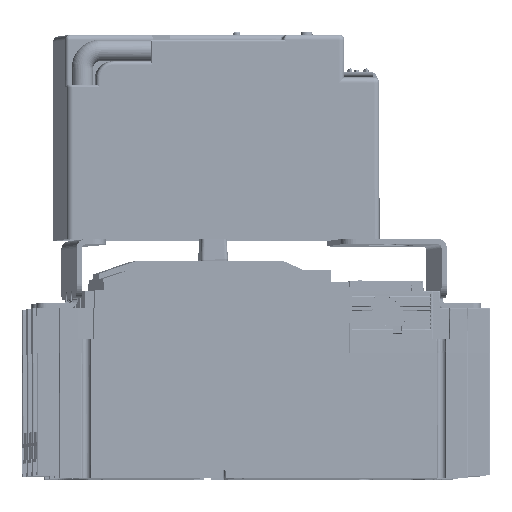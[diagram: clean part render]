
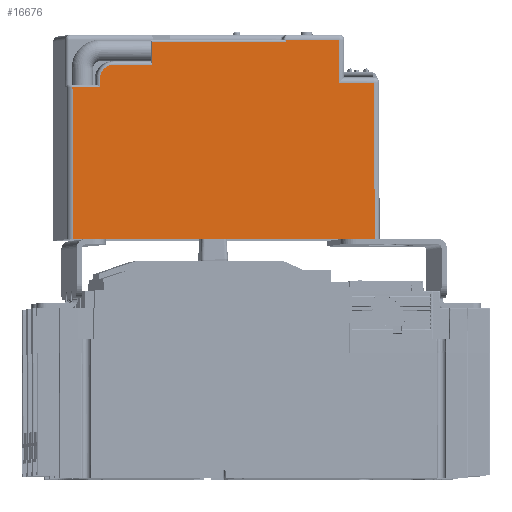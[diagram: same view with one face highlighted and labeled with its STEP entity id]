
A CAD part, left-side view. The second image highlights one B-rep face of the part: STEP entity #16676.
In plain terms, the highlighted planar face has unit normal (-0.998, -0.062, 0.009).
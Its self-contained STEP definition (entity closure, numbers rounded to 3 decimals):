
#16676=ADVANCED_FACE('',(#89555),#89557,.T.);
#89555=FACE_BOUND('',#89556,.T.);
#89556=EDGE_LOOP('',(#173562,#173563,#173564,#173565,#173566,#173567,#173568,#173569,
#173570,#173571,#173572,#173573,#173574,#173575,#173576,#173577));
#89557=PLANE('',#89558);
#89558=AXIS2_PLACEMENT_3D('',#89559,#89560,#89561);
#89559=CARTESIAN_POINT('',(-5.032,99.947,168.989));
#89560=DIRECTION('',(-0.998,-0.062,0.009));
#89561=DIRECTION('',(0.062,-0.998,0.));
#173562=ORIENTED_EDGE('',*,*,#234109,.F.);
#173563=ORIENTED_EDGE('',*,*,#234117,.T.);
#173564=ORIENTED_EDGE('',*,*,#236849,.F.);
#173565=ORIENTED_EDGE('',*,*,#236850,.T.);
#173566=ORIENTED_EDGE('',*,*,#236851,.T.);
#173567=ORIENTED_EDGE('',*,*,#236852,.T.);
#173568=ORIENTED_EDGE('',*,*,#236853,.F.);
#173569=ORIENTED_EDGE('',*,*,#236854,.F.);
#173570=ORIENTED_EDGE('',*,*,#236855,.T.);
#173571=ORIENTED_EDGE('',*,*,#236856,.T.);
#173572=ORIENTED_EDGE('',*,*,#236857,.T.);
#173573=ORIENTED_EDGE('',*,*,#236858,.F.);
#173574=ORIENTED_EDGE('',*,*,#236859,.T.);
#173575=ORIENTED_EDGE('',*,*,#236860,.T.);
#173576=ORIENTED_EDGE('',*,*,#236861,.F.);
#173577=ORIENTED_EDGE('',*,*,#234103,.T.);
#234103=EDGE_CURVE('',#270000,#267153,#270001,.T.);
#234109=EDGE_CURVE('',#267169,#267153,#270010,.F.);
#234117=EDGE_CURVE('',#267169,#270020,#270022,.T.);
#236849=EDGE_CURVE('',#274636,#270020,#274637,.T.);
#236850=EDGE_CURVE('',#274636,#274638,#274639,.T.);
#236851=EDGE_CURVE('',#274638,#274640,#274641,.T.);
#236852=EDGE_CURVE('',#274640,#274642,#274643,.F.);
#236853=EDGE_CURVE('',#274644,#274642,#274645,.T.);
#236854=EDGE_CURVE('',#274646,#274644,#274647,.T.);
#236855=EDGE_CURVE('',#274646,#274648,#274649,.T.);
#236856=EDGE_CURVE('',#274648,#274650,#274651,.F.);
#236857=EDGE_CURVE('',#274650,#274652,#274653,.T.);
#236858=EDGE_CURVE('',#274654,#274652,#274655,.F.);
#236859=EDGE_CURVE('',#274654,#274656,#274657,.F.);
#236860=EDGE_CURVE('',#274656,#274658,#274659,.T.);
#236861=EDGE_CURVE('',#270000,#274658,#274660,.T.);
#267153=VERTEX_POINT('',#316606);
#267169=VERTEX_POINT('',#316644);
#270000=VERTEX_POINT('',#324293);
#270001=LINE('',#324294,#324295);
#270010=LINE('',#324317,#324318);
#270020=VERTEX_POINT('',#324342);
#270022=LINE('',#324347,#324348);
#274636=VERTEX_POINT('',#336738);
#274637=LINE('',#336739,#336740);
#274638=VERTEX_POINT('',#336742);
#274639=LINE('',#336743,#336744);
#274640=VERTEX_POINT('',#336746);
#274641=LINE('',#336747,#336748);
#274642=VERTEX_POINT('',#336750);
#274643=LINE('',#336751,#336752);
#274644=VERTEX_POINT('',#336754);
#274645=LINE('',#336755,#336756);
#274646=VERTEX_POINT('',#336758);
#274647=LINE('',#336759,#336760);
#274648=VERTEX_POINT('',#336762);
#274649=LINE('',#336763,#336764);
#274650=VERTEX_POINT('',#336766);
#274651=LINE('',#336767,#336768);
#274652=VERTEX_POINT('',#336770);
#274653=LINE('',#336771,#336772);
#274654=VERTEX_POINT('',#336774);
#274655=CIRCLE('',#336775,8.);
#274656=VERTEX_POINT('',#336779);
#274657=LINE('',#336780,#336781);
#274658=VERTEX_POINT('',#336783);
#274659=LINE('',#336784,#336785);
#274660=LINE('',#336787,#336788);
#316606=CARTESIAN_POINT('',(-4.408,89.967,168.989));
#316644=CARTESIAN_POINT('',(-3.696,78.573,168.989));
#324293=CARTESIAN_POINT('',(-4.845,96.953,168.989));
#324294=CARTESIAN_POINT('',(-4.845,96.953,168.989));
#324295=VECTOR('',#324296,1.);
#324296=DIRECTION('',(0.062,-0.998,0.));
#324317=CARTESIAN_POINT('',(-4.408,89.967,168.989));
#324318=VECTOR('',#324319,1.);
#324319=DIRECTION('',(0.062,-0.998,0.));
#324342=CARTESIAN_POINT('',(4.615,-54.335,168.989));
#324347=CARTESIAN_POINT('',(-3.696,78.573,168.989));
#324348=VECTOR('',#324349,1.);
#324349=DIRECTION('',(0.062,-0.998,0.));
#336738=CARTESIAN_POINT('',(5.765,-72.715,168.989));
#336739=CARTESIAN_POINT('',(5.765,-72.715,168.989));
#336740=VECTOR('',#336741,1.);
#336741=DIRECTION('',(-0.062,0.998,0.));
#336742=CARTESIAN_POINT('',(6.531,-72.667,256.986));
#336743=CARTESIAN_POINT('',(5.765,-72.715,168.989));
#336744=VECTOR('',#336745,1.);
#336745=DIRECTION('',(0.009,0.001,1.));
#336746=CARTESIAN_POINT('',(5.296,-52.906,256.986));
#336747=CARTESIAN_POINT('',(6.531,-72.667,256.986));
#336748=VECTOR('',#336749,1.);
#336749=DIRECTION('',(-0.062,0.998,0.));
#336750=CARTESIAN_POINT('',(5.505,-52.893,280.985));
#336751=CARTESIAN_POINT('',(5.505,-52.893,280.985));
#336752=VECTOR('',#336753,1.);
#336753=DIRECTION('',(-0.009,-0.001,-1.));
#336754=CARTESIAN_POINT('',(3.62,-22.752,280.985));
#336755=CARTESIAN_POINT('',(3.62,-22.752,280.985));
#336756=VECTOR('',#336757,1.);
#336757=DIRECTION('',(0.062,-0.998,0.));
#336758=CARTESIAN_POINT('',(3.611,-22.752,279.985));
#336759=CARTESIAN_POINT('',(3.611,-22.752,279.985));
#336760=VECTOR('',#336761,1.);
#336761=DIRECTION('',(0.009,0.001,1.));
#336762=CARTESIAN_POINT('',(-1.101,52.6,279.985));
#336763=CARTESIAN_POINT('',(3.611,-22.752,279.985));
#336764=VECTOR('',#336765,1.);
#336765=DIRECTION('',(-0.062,0.998,0.));
#336766=CARTESIAN_POINT('',(-1.214,52.593,266.986));
#336767=CARTESIAN_POINT('',(-1.214,52.593,266.986));
#336768=VECTOR('',#336769,1.);
#336769=DIRECTION('',(0.009,0.001,1.));
#336770=CARTESIAN_POINT('',(-2.531,73.652,266.986));
#336771=CARTESIAN_POINT('',(-1.214,52.593,266.986));
#336772=VECTOR('',#336773,1.);
#336773=DIRECTION('',(-0.062,0.998,0.));
#336774=CARTESIAN_POINT('',(-3.1,81.632,258.986));
#336775=AXIS2_PLACEMENT_3D('',#336776,#336777,#336778);
#336776=CARTESIAN_POINT('',(-2.601,73.648,258.986));
#336777=DIRECTION('',(-0.998,-0.062,0.009));
#336778=DIRECTION('',(0.009,0.001,1.));
#336779=CARTESIAN_POINT('',(-3.139,81.63,254.486));
#336780=CARTESIAN_POINT('',(-3.139,81.63,254.486));
#336781=VECTOR('',#336782,1.);
#336782=DIRECTION('',(0.009,0.001,1.));
#336783=CARTESIAN_POINT('',(-4.1,97.,254.486));
#336784=CARTESIAN_POINT('',(-3.139,81.63,254.486));
#336785=VECTOR('',#336786,1.);
#336786=DIRECTION('',(-0.062,0.998,0.));
#336787=CARTESIAN_POINT('',(-4.845,96.953,168.989));
#336788=VECTOR('',#336789,1.);
#336789=DIRECTION('',(0.009,0.001,1.));
